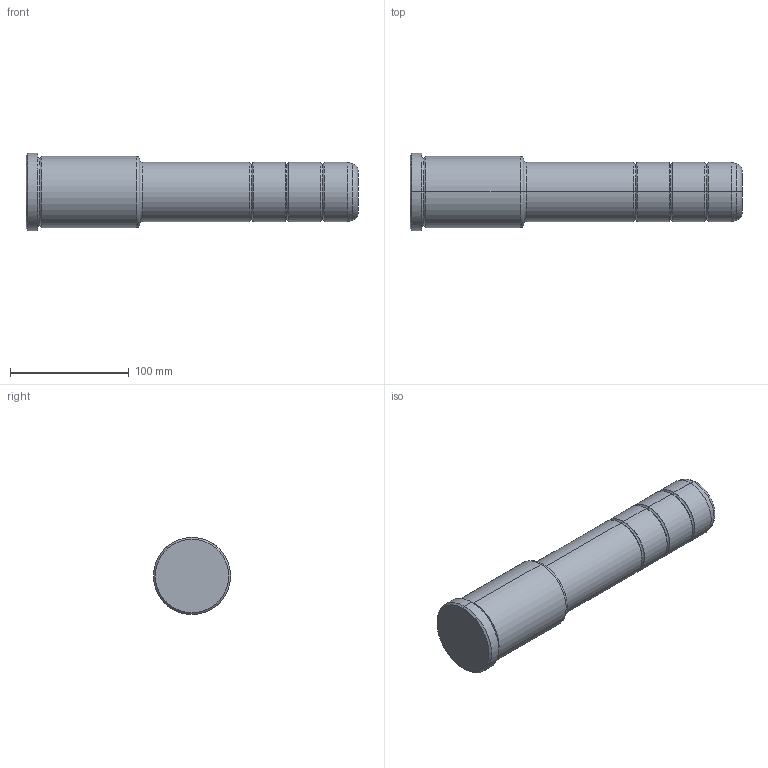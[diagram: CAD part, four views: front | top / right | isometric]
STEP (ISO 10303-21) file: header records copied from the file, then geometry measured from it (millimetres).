
FILE_DESCRIPTION(('CATIA V5 STEP Exchange'),'2;1');
FILE_NAME('C:\Users\Utente\Desktop\IO LAVORO\3D X SITO CF\X SITO\PLASTICA\351\351-50X96X280.stp','2021-11-08T18:54:32+00:00',('none'),('none'),'CATIA Version 5 Release 20 GA (IN-10)','CATIA V5 STEP AP203','none');
FILE_SCHEMA(('CONFIG_CONTROL_DESIGN'));
Length unit declared in the file: millimetre
Products named in the file (1): 351-50X96X280
Bounding box: 280 x 65 x 65 mm (x, y, z)
Volume: 632698 mm3; surface area: 53662.8 mm2
Topology: 1 solids, 1 shells, 41 faces, 114 edges, 76 vertices
Faces by surface type: torus 22, cylinder 12, cone 4, plane 3
Entity records: 1378 total; most frequent: CARTESIAN_POINT 288, ORIENTED_EDGE 228, DIRECTION 192, AXIS2_PLACEMENT_3D 136, EDGE_CURVE 114, CIRCLE 94, VERTEX_POINT 76, EDGE_LOOP 42
